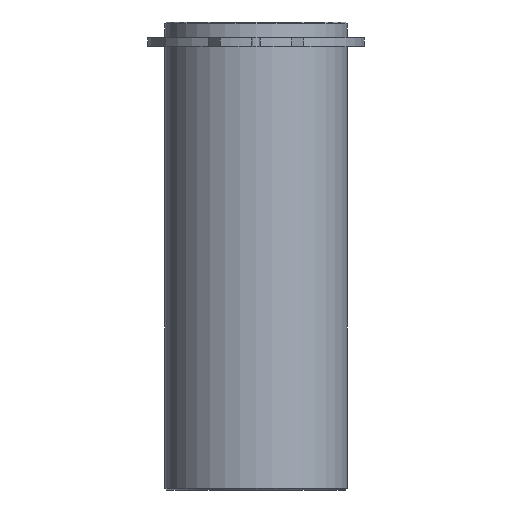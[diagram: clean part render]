
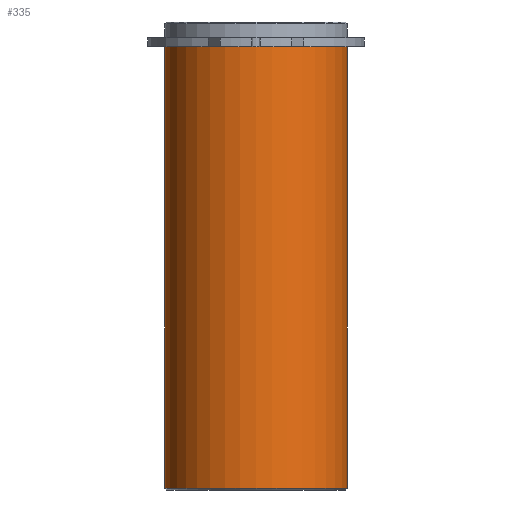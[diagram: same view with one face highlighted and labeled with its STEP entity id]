
A CAD part, front view. The second image highlights one B-rep face of the part: STEP entity #335.
In plain terms, the highlighted cylindrical face has radius 15.625 mm (diameter 31.25 mm), a partial arc.
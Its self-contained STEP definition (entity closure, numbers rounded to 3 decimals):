
#294=CARTESIAN_POINT('',(0.0,0.,-37.75));
#295=DIRECTION('',(0.0,0.,1.0));
#296=DIRECTION('',(1.0,0.0,0.0));
#297=AXIS2_PLACEMENT_3D('',#294,#295,#296);
#298=CYLINDRICAL_SURFACE('',#297,15.625);
#299=CARTESIAN_POINT('',(15.625,0.0,0.0));
#300=VERTEX_POINT('',#299);
#301=CARTESIAN_POINT('',(15.625,0.,-75.5));
#302=VERTEX_POINT('',#301);
#303=CARTESIAN_POINT('',(15.625,0.0,0.0));
#304=DIRECTION('',(0.0,0.0,-1.0));
#305=VECTOR('',#304,75.5);
#306=LINE('',#303,#305);
#307=EDGE_CURVE('',#300,#302,#306,.T.);
#308=ORIENTED_EDGE('',*,*,#307,.F.);
#309=CARTESIAN_POINT('',(-15.625,0.,0.0));
#310=VERTEX_POINT('',#309);
#311=CARTESIAN_POINT('',(0.0,0.0,0.0));
#312=DIRECTION('',(0.0,0.0,1.0));
#313=DIRECTION('',(1.0,0.0,0.0));
#314=AXIS2_PLACEMENT_3D('',#311,#312,#313);
#315=CIRCLE('',#314,15.625);
#316=EDGE_CURVE('',#310,#300,#315,.T.);
#317=ORIENTED_EDGE('',*,*,#316,.F.);
#318=CARTESIAN_POINT('',(-15.625,0.,-75.5));
#319=VERTEX_POINT('',#318);
#320=CARTESIAN_POINT('',(-15.625,0.,0.0));
#321=DIRECTION('',(0.0,0.0,-1.0));
#322=VECTOR('',#321,75.5);
#323=LINE('',#320,#322);
#324=EDGE_CURVE('',#310,#319,#323,.T.);
#325=ORIENTED_EDGE('',*,*,#324,.T.);
#326=CARTESIAN_POINT('',(0.0,0.,-75.5));
#327=DIRECTION('',(0.0,0.0,1.0));
#328=DIRECTION('',(1.0,0.0,0.0));
#329=AXIS2_PLACEMENT_3D('',#326,#327,#328);
#330=CIRCLE('',#329,15.625);
#331=EDGE_CURVE('',#319,#302,#330,.T.);
#332=ORIENTED_EDGE('',*,*,#331,.T.);
#333=EDGE_LOOP('',(#308,#317,#325,#332));
#334=FACE_OUTER_BOUND('',#333,.T.);
#335=ADVANCED_FACE('',(#334),#298,.T.);
